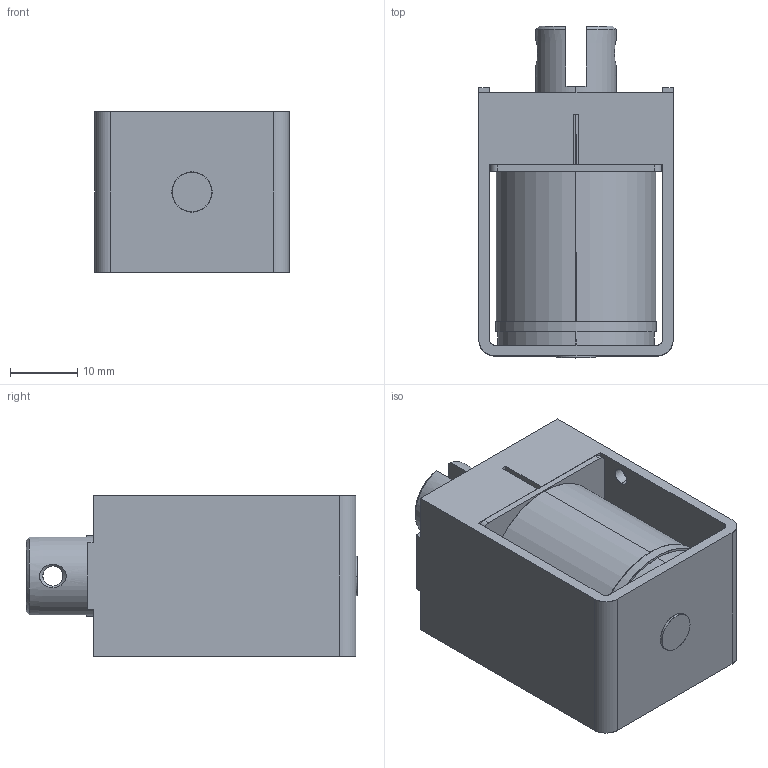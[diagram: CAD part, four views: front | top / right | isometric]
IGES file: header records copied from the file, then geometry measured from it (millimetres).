
Start section: SolidWorks IGES file using analytic representation for surfaces
Global section: file name: L:\カタログ\web用3Dデータ\CD1240\3D_CD1240\w_cd1240.IGS; native system: SolidWorks 2014; preprocessor: SolidWorks 2014; author: jiba; date: 140725.140815; units: millimetre
Bounding box: 29 x 49.5 x 24 mm (x, y, z)
Surface area: 14610.1 mm2 (no closed solid volume)
Topology: 0 solids, 0 shells, 102 faces, 1816 edges, 1816 vertices
Faces by surface type: revolution 52, bspline 50
